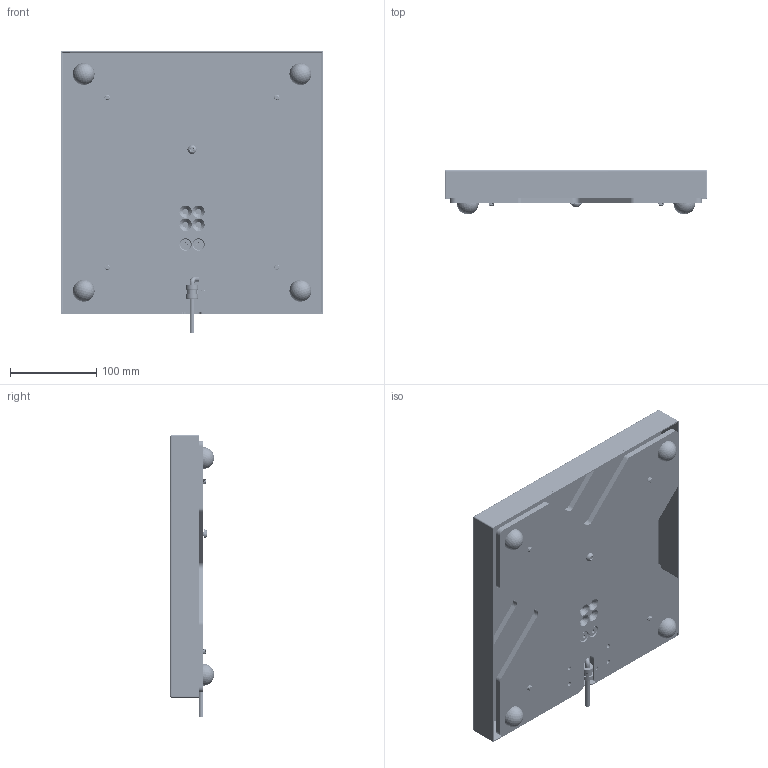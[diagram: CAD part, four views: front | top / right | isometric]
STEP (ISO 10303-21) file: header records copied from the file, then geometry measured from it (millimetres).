
FILE_DESCRIPTION (( 'STEP AP203' ), '1' );
FILE_NAME ('HIBSX-12SS-AL22 Series.STEP', '2022-02-10T18:50:13', ( '' ), ( '' ), 'SwSTEP 2.0', 'SolidWorks 2020', '' );
FILE_SCHEMA (( 'CONFIG_CONTROL_DESIGN' ));
Products named in the file (18): 6007-0104-0_3225T22; 0530-0894-XX-0; 2823-0089-0_92125A238; SPA22 Cable; Load_Sensor_HISPA22; 2823-0098-0_92095A239; 2818-0130-0_92240A545; 0530-0710-01-0; 0514-0260-01-0; 0514-0262-01-0; 0530-0895-01-0; 0514-0264-01-0; 2814-0102-0_91845A029; Load_Sensor_HISPA22_10KG-40KG; 0514-0261-01-0; 2853-0001-0_9541K83; 2852-0001-0; HIBSX-12SS-AL22 Series
Assembly tree (31 placements, depth 3):
  HIBSX-12SS-AL22 Series
    0514-0260-01-0
    0514-0261-01-0
    0530-0710-01-0
    0530-0894-XX-0
    2814-0102-0_91845A029  x4
    2823-0098-0_92095A239  x2
    2852-0001-0
    2853-0001-0_9541K83  x4
    6007-0104-0_3225T22
    Load_Sensor_HISPA22
      Load_Sensor_HISPA22_10KG-40KG
      SPA22 Cable
    0514-0262-01-0
    0530-0895-01-0
    0514-0264-01-0  x2
    2818-0130-0_92240A545  x4
    2823-0089-0_92125A238  x4
Bounding box: 304.8 x 51.35 x 327.26 mm (x, y, z)
Volume: 1212285.8 mm3; surface area: 636647.3 mm2
Topology: 382 solids, 382 shells, 7732 faces, 20497 edges, 13518 vertices
Faces by surface type: bspline 3387, plane 3266, cylinder 789, cone 214, torus 44, sphere 32
Entity records: 245450 total; most frequent: CARTESIAN_POINT 92531, ORIENTED_EDGE 37170, DIRECTION 19510, EDGE_CURVE 18585, VERTEX_POINT 12306, VECTOR 10932, LINE 10932, EDGE_LOOP 7383
